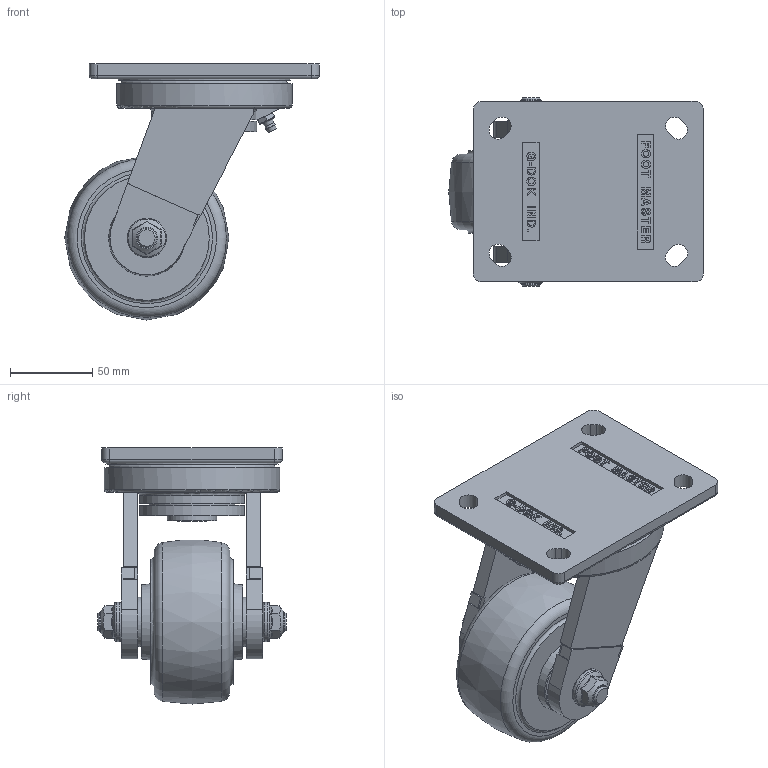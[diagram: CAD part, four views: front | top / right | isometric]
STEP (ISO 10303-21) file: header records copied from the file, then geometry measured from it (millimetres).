
FILE_DESCRIPTION((''),'2;1');
FILE_NAME('C:\Documents and Settings\Administrator\바탕 화면\3D STEP\GXTD-SERIES\GXTA-100\GXTA-100-SF.stp','2010-12-27T14:39:56',('Administrator'),(''),'Autodesk Inventor 2009','Autodesk Inventor 2009','');
FILE_SCHEMA(('AUTOMOTIVE_DESIGN { 1 0 10303 214 1 1 1 1 }'));
Length unit declared in the file: millimetre
Products named in the file (1): GXTA-100-SF
Bounding box: 155 x 115 x 156 mm (x, y, z)
Volume: 769826.3 mm3; surface area: 168026.3 mm2
Topology: 2 solids, 12 shells, 983 faces, 2938 edges, 1917 vertices
Faces by surface type: plane 676, cylinder 108, sphere 79, torus 57, bspline 37, cone 26
Full cylindrical faces by diameter (mm): 5 x1, 12 x4, 12.2 x2, 15 x6, 15.2 x2, 18 x2, 19.952 x1, 21.667 x6, 24 x2, 28.333 x6, 30 x3, 31 x1, 34 x1, 35 x6, 36 x1, 37 x1, 48.4 x1, 52 x1, 55 x1, 61 x1, 64 x1, 90 x1, 95 x1, 102 x1, 105 x1, 107 x1
Entity records: 36938 total; most frequent: CARTESIAN_POINT 12365, ORIENTED_EDGE 5148, DIRECTION 4811, EDGE_CURVE 2574, VERTEX_POINT 1757, VECTOR 1757, LINE 1757, AXIS2_PLACEMENT_3D 1527
